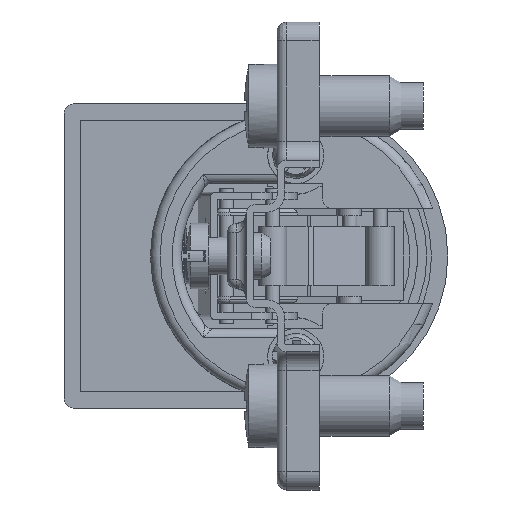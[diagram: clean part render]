
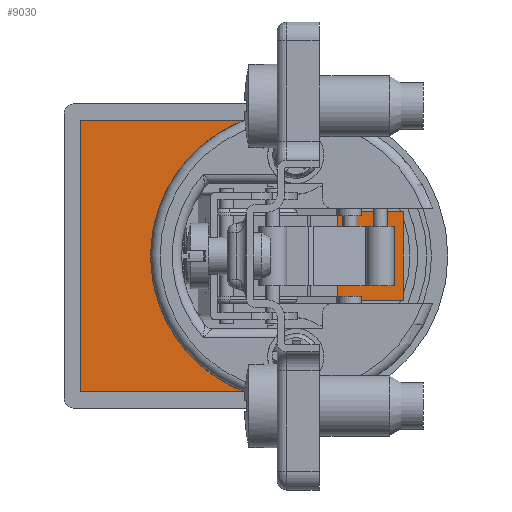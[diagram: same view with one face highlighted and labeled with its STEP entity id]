
A CAD part, left-side view. The second image highlights one B-rep face of the part: STEP entity #9030.
In plain terms, the highlighted planar face has unit normal (-1, 0, 0) as drawn and (0.08, 0.997, 0) by its records, which use the part's own axes.
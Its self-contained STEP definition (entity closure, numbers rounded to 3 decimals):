
#845=LINE('',#15764,#1538);
#849=LINE('',#15771,#1542);
#852=LINE('',#15780,#1545);
#1538=VECTOR('',#12437,29.);
#1542=VECTOR('',#12443,23.);
#1545=VECTOR('',#12454,23.);
#1843=PLANE('',#9984);
#2417=FACE_OUTER_BOUND('',#2999,.T.);
#2999=EDGE_LOOP('',(#7737,#7738,#7739,#7740));
#3507=CIRCLE('',#9982,14.5);
#4247=VERTEX_POINT('',#15761);
#4248=VERTEX_POINT('',#15763);
#4250=VERTEX_POINT('',#15769);
#4252=VERTEX_POINT('',#15775);
#5431=EDGE_CURVE('',#4247,#4248,#845,.T.);
#5435=EDGE_CURVE('',#4250,#4247,#849,.T.);
#5438=EDGE_CURVE('',#4252,#4250,#3507,.T.);
#5440=EDGE_CURVE('',#4248,#4252,#852,.T.);
#7737=ORIENTED_EDGE('',*,*,#5440,.F.);
#7738=ORIENTED_EDGE('',*,*,#5431,.F.);
#7739=ORIENTED_EDGE('',*,*,#5435,.F.);
#7740=ORIENTED_EDGE('',*,*,#5438,.F.);
#9030=ADVANCED_FACE('',(#2417),#1843,.T.);
#9982=AXIS2_PLACEMENT_3D('',#15777,#12449,#12450);
#9984=AXIS2_PLACEMENT_3D('',#15781,#12455,#12456);
#12437=DIRECTION('',(0.,0.,1.));
#12443=DIRECTION('',(0.997,-0.08,0.));
#12449=DIRECTION('center_axis',(-0.08,-0.997,
0.));
#12450=DIRECTION('ref_axis',(0.,0.,1.));
#12454=DIRECTION('',(-0.997,0.08,0.));
#12455=DIRECTION('center_axis',(0.08,0.997,0.));
#12456=DIRECTION('ref_axis',(0.,0.,1.));
#15761=CARTESIAN_POINT('',(88.706,1.229,-14.5));
#15763=CARTESIAN_POINT('',(88.706,1.229,14.5));
#15764=CARTESIAN_POINT('',(88.706,1.229,-8.125));
#15769=CARTESIAN_POINT('',(65.78,3.074,-14.5));
#15771=CARTESIAN_POINT('',(70.009,2.734,-14.5));
#15775=CARTESIAN_POINT('',(65.78,3.074,14.5));
#15777=CARTESIAN_POINT('Origin',(65.78,3.074,0.));
#15780=CARTESIAN_POINT('',(82.345,1.741,14.5));
#15781=CARTESIAN_POINT('Origin',(74.239,2.393,0.));
